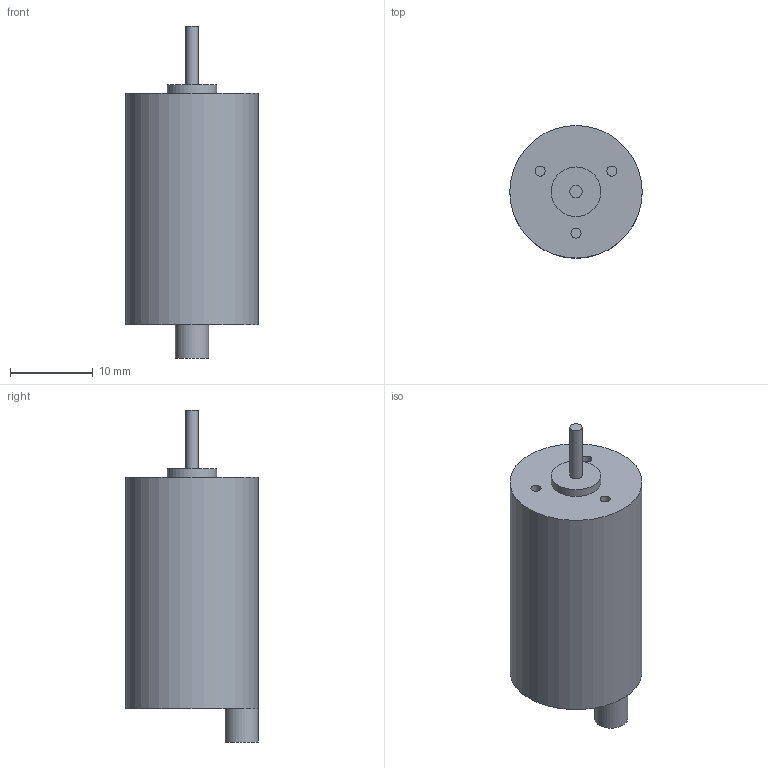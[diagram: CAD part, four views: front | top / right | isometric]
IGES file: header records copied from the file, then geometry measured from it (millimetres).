
Global section: file name: No Iges File Name specified; native system: Autodesk Inventor 2012; preprocessor: AutoDesk Inventor Iges Exporter R2012; author: mangiullo; date: 20130920.112035; units: millimetre
Bounding box: 16 x 16 x 40.1 mm (x, y, z)
Volume: 5713.8 mm3; surface area: 1935.1 mm2
Topology: 1 solids, 1 shells, 15 faces, 23 edges, 15 vertices
Faces by surface type: plane 8, cylinder 4, revolution 3
Full cylindrical faces by diameter (mm): 1.5 x1, 4 x1, 6 x1, 16 x1
